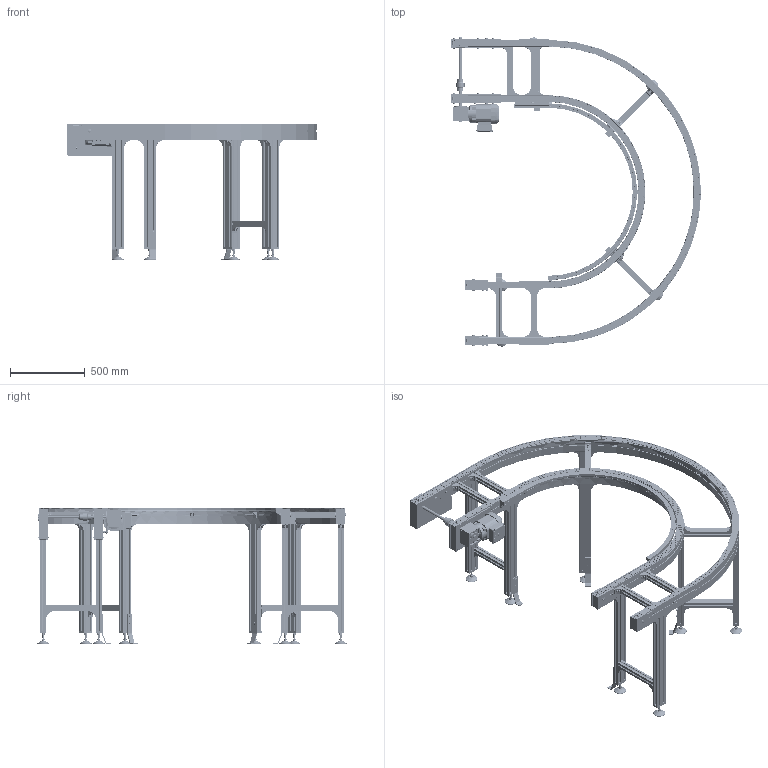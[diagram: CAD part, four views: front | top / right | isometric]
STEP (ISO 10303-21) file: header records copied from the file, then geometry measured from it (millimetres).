
FILE_DESCRIPTION(/* description */ (''),/* implementation_level */ '2;1');
FILE_NAME(/* name */ 'C:\Marketing\01_Versamove-SPU_STEP-Dateien-Homepage\VersamoveStandard\B400\STEP-Dateien\Flachplattenförderer_FPF-P-2045_Kurve180-links_B400.stp',/* time_stamp */ '2016-12-20T15:02:35+01:00',/* author */ ('herbert.engels'),/* organization */ (''),/* preprocessor_version */ 'ST-DEVELOPER v15.6',/* originating_system */ 'Autodesk Inventor 2015',/* authorisation */ '');
FILE_SCHEMA (('CONFIG_CONTROL_DESIGN'));
Length unit declared in the file: millimetre
Products named in the file (1): Flachplattenförderer_FPF-P-2045_Kurve180-links_B4
00
Bounding box: 1665.5 x 2064.24 x 905.3 mm (x, y, z)
Volume: 46220474.5 mm3; surface area: 11257835.7 mm2
Topology: 5 solids, 5 shells, 10784 faces, 30644 edges, 19520 vertices
Faces by surface type: plane 6999, cylinder 2712, cone 612, torus 359, sphere 86, bspline 16
Full cylindrical faces by diameter (mm): 2 x8, 6 x14, 6.647 x12, 7.323 x4, 8 x134, 8.7 x4, 9 x32, 10 x10, 10.066 x1, 11 x6, 11.4 x24, 12 x16, 13 x132, 13.6 x8, 14 x90, 15 x16, 16 x16, 18 x4, 19 x4, 19.77 x4, 20 x17, 25 x1, 25.05 x4, 28 x1, 30 x2, 40 x2, 53 x1, 54 x2, 56 x3, 79 x8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
Entity records: 361110 total; most frequent: CARTESIAN_POINT 70576, ORIENTED_EDGE 58766, DIRECTION 57232, EDGE_CURVE 29341, LINE 19746, VECTOR 19746, VERTEX_POINT 19143, AXIS2_PLACEMENT_3D 18743
